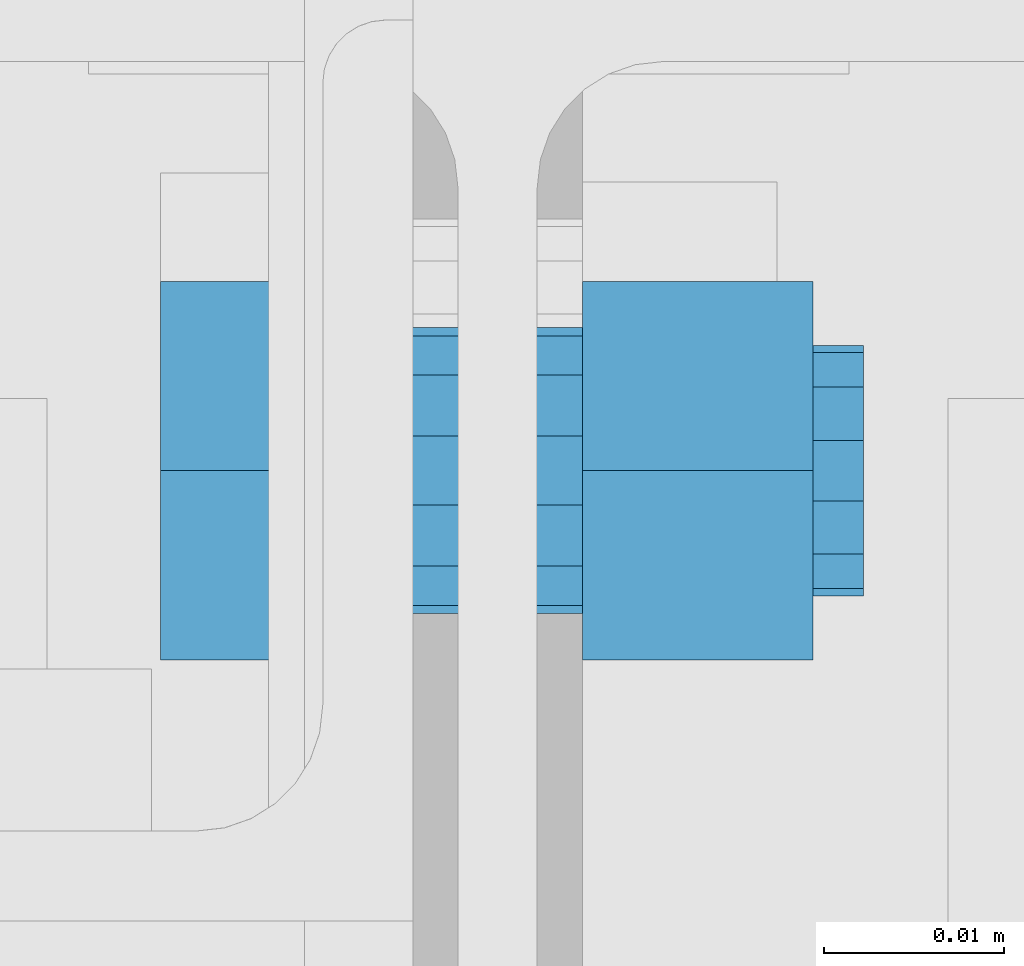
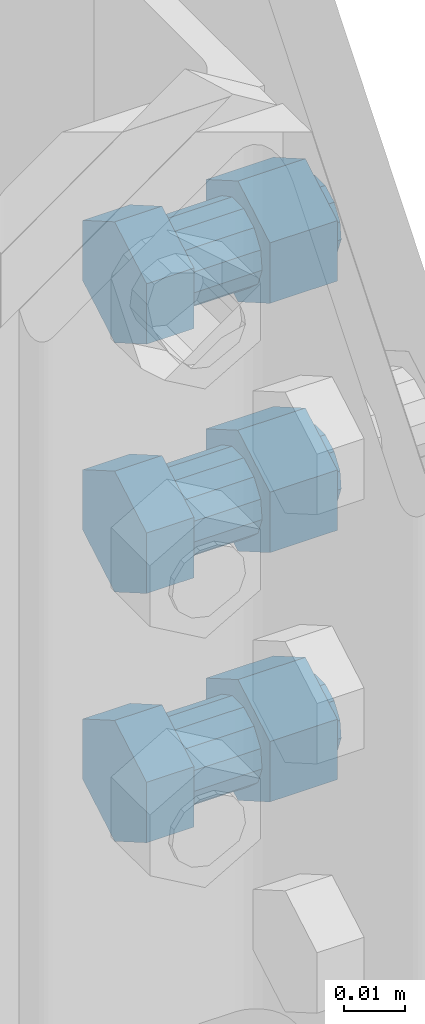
# One storey, part 13 of 18: 1 mechanical fastener.
"""IFC2X3 building model written with IfcOpenShell, lengths in millimetres."""

import ifcopenshell
import ifcopenshell.guid

model = None  # the IFC model being written
_history = None  # IfcOwnerHistory: only IFC2X3 demands one
_inside = {}  # id of a spatial element -> (the spatial element, [elements in it])
_under = {}  # id of a project, library or spatial element -> (it, [spatial elements below it])
_declared = {}  # id of a project -> (the project, [libraries it declares])
_typed = {}  # id of a type object -> (the type object, [elements of that type])
_made_of = {}  # id of a material, layer set ... -> (it, [elements and type objects made of it])


def new_model(schema):
    """Start an empty IFC model of exactly this schema.

    Asked for "IFC4X3", IfcOpenShell would pick the latest addendum, in which some entities
    have other attributes; the version numbers below select the first issue.
    IFC2X3 requires an IfcOwnerHistory on every rooted entity: one is made here for all.
    """
    global model, _history
    if schema == "IFC4X3":
        model = ifcopenshell.file(schema_version=(4, 3, 0, 0))
    else:
        model = ifcopenshell.file(schema=schema)
    _inside.clear()
    _under.clear()
    _declared.clear()
    _typed.clear()
    _made_of.clear()
    _history = None
    if model.schema == "IFC2X3":
        org = make("IfcOrganization", Name="unknown")
        user = make(
            "IfcPersonAndOrganization",
            ThePerson=make("IfcPerson", FamilyName="unknown"),
            TheOrganization=org,
        )
        app = make(
            "IfcApplication",
            ApplicationDeveloper=org,
            Version="unknown",
            ApplicationFullName="unknown",
            ApplicationIdentifier="unknown",
        )
        _history = make(
            "IfcOwnerHistory",
            OwningUser=user,
            OwningApplication=app,
            ChangeAction="ADDED",
            CreationDate=0,
        )
    return model


def make(cls, **values):
    """One entity of the class cls with the attributes given. An attribute that is None is left unset."""
    return model.create_entity(
        cls, **{name: value for name, value in values.items() if value is not None}
    )


def rooted(cls, **values):
    """An entity with a GlobalId (a new one), such as an element, a storey or a relation."""
    return make(cls, GlobalId=ifcopenshell.guid.new(), OwnerHistory=_history, **values)


def si_unit(unit_type, name, prefix=None):
    """IfcSIUnit, for example si_unit("LENGTHUNIT", "METRE", prefix="MILLI")."""
    return make("IfcSIUnit", UnitType=unit_type, Prefix=prefix, Name=name)


def assignment(units):
    """IfcUnitAssignment: the units of a project."""
    return None if units is None else make("IfcUnitAssignment", Units=units)


def point(xyz):
    """IfcCartesianPoint."""
    return None if xyz is None else make("IfcCartesianPoint", Coordinates=xyz)


def direction(xyz):
    """IfcDirection."""
    return None if xyz is None else make("IfcDirection", DirectionRatios=xyz)


def frame(location, z_axis=None, x_axis=None):
    """IfcAxis2Placement3D, a coordinate frame: its origin and axes. An axis left out is left unset."""
    return make(
        "IfcAxis2Placement3D",
        Location=point(location),
        Axis=direction(z_axis),
        RefDirection=direction(x_axis),
    )


def origin_with_axes():
    """The frame at (0, 0, 0) with the z axis (0, 0, 1) and the x axis (1, 0, 0) written out."""
    return frame((0.0, 0.0, 0.0), z_axis=(0.0, 0.0, 1.0), x_axis=(1.0, 0.0, 0.0))


def place(relative_to, where):
    """IfcLocalPlacement: puts the frame where relative to a parent placement (None: the world)."""
    return make(
        "IfcLocalPlacement", PlacementRelTo=relative_to, RelativePlacement=where
    )


def context(
    kind, dimensions, precision=None, world=None, true_north=None, identifier=None
):
    """IfcGeometricRepresentationContext, for example the 3D "Model" context."""
    return make(
        "IfcGeometricRepresentationContext",
        ContextIdentifier=identifier,
        ContextType=kind,
        CoordinateSpaceDimension=dimensions,
        Precision=precision,
        WorldCoordinateSystem=world,
        TrueNorth=true_north,
    )


def subcontext(parent, identifier, kind, view, scale=None):
    """IfcGeometricRepresentationSubContext, for example "Body" below "Model"."""
    return make(
        "IfcGeometricRepresentationSubContext",
        ContextIdentifier=identifier,
        ContextType=kind,
        ParentContext=parent,
        TargetScale=scale,
        TargetView=view,
    )


def project(units=None, contexts=None):
    """IfcProject with its units and contexts."""
    return rooted(
        "IfcProject",
        Name="project",
        RepresentationContexts=contexts,
        UnitsInContext=assignment(units),
    )


def spatial(cls, under=None, at=None, **own):
    """A site, building, storey or space (cls), placed at a placement, below another one or the project."""
    s = rooted(cls, ObjectPlacement=at, **own)
    if under is not None:
        _under.setdefault(under.id(), (under, []))[1].append(s)
    return s


def faces_of(points, faces, orient=None, outer=None):
    """IfcFace entities. A face is a list of loops; a loop is a list of indices into points, from 0.

    orient and outer hold one flag for each loop. By default every Orientation is true, the
    first loop of a face is its IfcFaceOuterBound and the others are IfcFaceBound.
    """
    made = []
    for i, loops in enumerate(faces):
        bounds = []
        for j, loop in enumerate(loops):
            is_outer = j == 0 if outer is None else outer[i][j]
            bounds.append(
                make(
                    "IfcFaceOuterBound" if is_outer else "IfcFaceBound",
                    Bound=make("IfcPolyLoop", Polygon=[points[k] for k in loop]),
                    Orientation=True if orient is None else orient[i][j],
                )
            )
        made.append(make("IfcFace", Bounds=bounds))
    return made


def faceted_brep(points, faces, orient=None, outer=None, voids=None):
    """IfcFacetedBrep: a solid bounded by flat faces; with voids (closed shells), ...WithVoids."""
    shared = [point(p) for p in points]
    hull = make("IfcClosedShell", CfsFaces=faces_of(shared, faces, orient, outer))
    if voids is None:
        return make("IfcFacetedBrep", Outer=hull)
    return make(
        "IfcFacetedBrepWithVoids",
        Outer=hull,
        Voids=[
            make(cls, CfsFaces=faces_of(shared, fs, o, b)) for cls, fs, o, b in voids
        ],
    )


def shape(context_of_items, identifier, shape_type, items):
    """IfcShapeRepresentation: the items that make up one representation, for example the "Body"."""
    return make(
        "IfcShapeRepresentation",
        ContextOfItems=context_of_items,
        RepresentationIdentifier=identifier,
        RepresentationType=shape_type,
        Items=items,
    )


def source(mapping_origin, context_of_items, identifier, shape_type, items):
    """IfcRepresentationMap: a shape defined once, which mapped items show again and again."""
    return make(
        "IfcRepresentationMap",
        MappingOrigin=mapping_origin,
        MappedRepresentation=shape(context_of_items, identifier, shape_type, items),
    )


def transform(
    local_origin,
    x_axis=None,
    y_axis=None,
    z_axis=None,
    scale=None,
    scale2=None,
    scale3=None,
    uniform=True,
):
    """IfcCartesianTransformationOperator3D, or its non-uniform kind. x_axis, y_axis, z_axis: its Axis1, 2, 3."""
    if uniform:
        return make(
            "IfcCartesianTransformationOperator3D",
            Axis1=direction(x_axis),
            Axis2=direction(y_axis),
            LocalOrigin=point(local_origin),
            Scale=scale,
            Axis3=direction(z_axis),
        )
    return make(
        "IfcCartesianTransformationOperator3DnonUniform",
        Axis1=direction(x_axis),
        Axis2=direction(y_axis),
        LocalOrigin=point(local_origin),
        Scale=scale,
        Axis3=direction(z_axis),
        Scale2=scale2,
        Scale3=scale3,
    )


def mapped(mapping_source, mapping_target):
    """IfcMappedItem: shows the shape of a source again, moved by a transform."""
    return make(
        "IfcMappedItem", MappingSource=mapping_source, MappingTarget=mapping_target
    )


def made_of(thing, what):
    """Note that an element or type object is made of a material, layer set ...; save() writes the relation."""
    if what is not None:
        _made_of.setdefault(what.id(), (what, []))[1].append(thing)
    return thing


def type_object(cls, material=None, **own):
    """A type object (cls), such as IfcWallType, which elements share."""
    return made_of(rooted(cls, **own), material)


def element(
    cls,
    number,
    at=None,
    inside=None,
    cuts=None,
    type_object=None,
    material=None,
    context=None,
    identifier="Body",
    shape_type=None,
    held_by="IfcProductDefinitionShape",
    body=None,
    shapes=None,
    **own,
):
    """One element of the class cls, such as IfcWall. Its Tag is "e" and its number.

    at: its placement. inside: the storey or other place that contains it. cuts: it is an
    opening in that element (IfcRelVoidsElement). A single representation is given by context,
    identifier, shape_type and body (its items); several are given by shapes. held_by: the class
    of the entity that holds the representations. save() writes the other relations.
    """
    e = rooted(cls, Tag="e%d" % number, ObjectPlacement=at, **own)
    if body is not None:
        shapes = [shape(context, identifier, shape_type, body)]
    if shapes is not None:
        e.Representation = make(held_by, Representations=shapes)
    if inside is not None:
        _inside.setdefault(inside.id(), (inside, []))[1].append(e)
    if cuts is not None:
        rooted(
            "IfcRelVoidsElement", RelatingBuildingElement=cuts, RelatedOpeningElement=e
        )
    if type_object is not None:
        _typed.setdefault(type_object.id(), (type_object, []))[1].append(e)
    return made_of(e, material)


def aggregate(whole, parts):
    """IfcRelAggregates: a whole, such as a stair, and the parts it consists of."""
    return rooted("IfcRelAggregates", RelatingObject=whole, RelatedObjects=parts)


def save(model, path):
    """Write the relations noted so far, then the file.

    IfcRelAggregates (storeys below a building ...), IfcRelContainedInSpatialStructure (elements
    in a storey), IfcRelDefinesByType, IfcRelAssociatesMaterial and IfcRelDeclares: one each for
    every whole, place, type object, material and project.
    """
    for whole, parts in _under.values():
        aggregate(whole, parts)
    for where, things in _inside.values():
        rooted(
            "IfcRelContainedInSpatialStructure",
            RelatedElements=things,
            RelatingStructure=where,
        )
    for kind, things in _typed.values():
        rooted("IfcRelDefinesByType", RelatedObjects=things, RelatingType=kind)
    for what, things in _made_of.values():
        rooted("IfcRelAssociatesMaterial", RelatedObjects=things, RelatingMaterial=what)
    for by, libraries in _declared.values():
        rooted("IfcRelDeclares", RelatingContext=by, RelatedDefinitions=libraries)
    model.write(path)


model = new_model("IFC2X3")

# Units and contexts
model_context = context("Model", 3, precision=1e-05, world=origin_with_axes())
body_context = subcontext(model_context, "Body", "Model", "MODEL_VIEW")
ifc_project = project(units=[si_unit("LENGTHUNIT", "METRE", prefix="MILLI"), si_unit("AREAUNIT", "SQUARE_METRE"), si_unit("VOLUMEUNIT", "CUBIC_METRE"), si_unit("MASSUNIT", "GRAM", prefix="KILO"), si_unit("TIMEUNIT", "SECOND"), si_unit("PLANEANGLEUNIT", "RADIAN"), si_unit("SOLIDANGLEUNIT", "STERADIAN"), si_unit("THERMODYNAMICTEMPERATUREUNIT", "DEGREE_CELSIUS"), si_unit("LUMINOUSINTENSITYUNIT", "LUMEN")], contexts=[model_context])

# Site, building, storey
site_placement = place(None, origin_with_axes())
site = spatial("IfcSite", under=ifc_project, at=site_placement, Name="Undefined", CompositionType="ELEMENT")
building_placement = place(site_placement, origin_with_axes())
building = spatial("IfcBuilding", under=site, at=building_placement, Name="Undefined", CompositionType="ELEMENT")
storey_placement = place(building_placement, origin_with_axes())
storey = spatial("IfcBuildingStorey", under=building, at=storey_placement, Name="Undefined", CompositionType="ELEMENT", Elevation=0.0)

# Mechanical fastener
mechanical_fastener_type = type_object("IfcMechanicalFastenerType", Name="Bolt assembly")
shared_shape_1 = source(origin_with_axes(), body_context, "Body", "Brep", [
    faceted_brep([(12.12435565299, -18.700009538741, 0.0), (6.062177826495, -18.700009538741, 10.5000000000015), (-6.062177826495, -18.700009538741, 10.5000000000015), (-12.12435565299, -18.700009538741, 0.0), (-6.062177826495, -18.700009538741, -10.5000000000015), (6.062177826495, -18.700009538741, -10.5000000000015), (6.062177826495, -9.700009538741, -10.5000000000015), (-6.062177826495, -9.700009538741, -10.5000000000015), (-12.12435565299, -9.700009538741, 0.0), (-6.062177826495, -9.700009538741, 10.5000000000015), (6.062177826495, -9.700009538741, 10.5000000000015), (12.12435565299, -9.700009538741, 0.0), (7.0, -9.700009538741, 0.0), (6.19819217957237, -9.700009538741, 3.25306220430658), (3.97645322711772, -9.700009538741, 5.76088706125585), (0.843756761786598, -9.700009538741, 6.94896211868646), (-2.48223420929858, -9.700009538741, 6.54511369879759), (-5.23957523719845, -9.700009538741, 4.64185860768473), (-6.79659272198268, -9.700009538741, 1.67520965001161), (-6.79659272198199, -9.700009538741, -1.67520965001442), (-5.23957523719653, -9.700009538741, -4.6418586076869), (-2.48223420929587, -9.700009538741, -6.54511369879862), (0.843756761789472, -9.700009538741, -6.94896211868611), (3.97645322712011, -9.700009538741, -5.7608870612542), (3.97645322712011, 20.299990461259, -5.7608870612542), (0.843756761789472, 20.299990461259, -6.94896211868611), (-2.48223420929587, 20.299990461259, -6.54511369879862), (-5.23957523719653, 20.299990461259, -4.6418586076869), (-6.79659272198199, 20.299990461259, -1.67520965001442), (-6.79659272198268, 20.299990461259, 1.67520965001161), (-5.23957523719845, 20.299990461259, 4.64185860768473), (-2.48223420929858, 20.299990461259, 6.54511369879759), (0.843756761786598, 20.299990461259, 6.94896211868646), (3.97645322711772, 20.299990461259, 5.76088706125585), (6.19819217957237, 20.299990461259, 3.25306220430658), (7.0, 20.299990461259, 0.0), (12.12435565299, 4.69999008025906, 0.0), (6.062177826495, 4.69999008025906, 10.5000000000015), (-6.062177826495, 4.69999008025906, 10.5000000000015), (-12.12435565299, 4.69999008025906, 0.0), (-6.062177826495, 4.69999008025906, -10.5000000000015), (6.062177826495, 4.69999008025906, -10.5000000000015), (6.062177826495, 17.4999902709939, -10.5000000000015), (-6.062177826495, 17.4999902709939, -10.5000000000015), (-12.12435565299, 17.4999902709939, 0.0), (-6.062177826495, 17.4999902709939, 10.5000000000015), (6.062177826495, 17.4999902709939, 10.5000000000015), (12.12435565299, 17.4999902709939, 0.0)], [[[0, 1, 2, 3, 4, 5]], [[6, 7, 8, 9, 10, 11]], [[0, 11, 10, 1]], [[1, 10, 9, 2]], [[2, 9, 8, 3]], [[3, 8, 7, 4]], [[4, 7, 6, 5]], [[5, 6, 11, 0]], [[12, 13, 14, 15, 16, 17, 18, 19, 20, 21, 22, 23]], [[24, 25, 26, 27, 28, 29, 30, 31, 32, 33, 34, 35]], [[12, 35, 34, 13]], [[13, 34, 33, 14]], [[14, 33, 32, 15]], [[15, 32, 31, 16]], [[16, 31, 30, 17]], [[17, 30, 29, 18]], [[18, 29, 28, 19]], [[19, 28, 27, 20]], [[20, 27, 26, 21]], [[21, 26, 25, 22]], [[22, 25, 24, 23]], [[23, 24, 35, 12]], [[36, 37, 38, 39, 40, 41]], [[42, 43, 44, 45, 46, 47]], [[36, 47, 46, 37]], [[37, 46, 45, 38]], [[38, 45, 44, 39]], [[39, 44, 43, 40]], [[40, 43, 42, 41]], [[41, 42, 47, 36]]]),
    faceted_brep([(8.0, -4.80000953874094, 0.0), (7.08364820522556, -4.80000953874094, 3.71778537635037), (4.54451797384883, -4.80000953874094, 6.58387092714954), (0.964293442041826, -4.80000953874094, 7.94167099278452), (-2.83683909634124, -4.80000953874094, 7.48012994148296), (-5.98808598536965, -4.80000953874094, 5.30498126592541), (-7.76753453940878, -4.80000953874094, 1.91452531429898), (-7.76753453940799, -4.80000953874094, -1.91452531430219), (-5.98808598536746, -4.80000953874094, -5.30498126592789), (-2.83683909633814, -4.80000953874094, -7.48012994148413), (0.964293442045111, -4.80000953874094, -7.94167099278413), (4.54451797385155, -4.80000953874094, -6.58387092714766), (4.54451797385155, 4.69999008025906, -6.58387092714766), (0.964293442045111, 4.69999008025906, -7.94167099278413), (-2.83683909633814, 4.69999008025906, -7.48012994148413), (-5.98808598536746, 4.69999008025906, -5.30498126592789), (-7.76753453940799, 4.69999008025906, -1.91452531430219), (-7.76753453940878, 4.69999008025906, 1.91452531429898), (-5.98808598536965, 4.69999008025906, 5.30498126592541), (-2.83683909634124, 4.69999008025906, 7.48012994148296), (0.964293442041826, 4.69999008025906, 7.94167099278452), (4.54451797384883, 4.69999008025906, 6.58387092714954), (7.08364820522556, 4.69999008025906, 3.71778537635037), (8.0, 4.69999008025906, 0.0), (8.0, -9.600009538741, 0.0), (7.08364820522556, -9.600009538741, 3.71778537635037), (4.54451797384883, -9.600009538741, 6.58387092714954), (0.964293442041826, -9.600009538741, 7.94167099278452), (-2.83683909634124, -9.600009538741, 7.48012994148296), (-5.98808598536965, -9.600009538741, 5.30498126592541), (-7.76753453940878, -9.600009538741, 1.91452531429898), (-7.76753453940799, -9.600009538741, -1.91452531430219), (-5.98808598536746, -9.600009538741, -5.30498126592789), (-2.83683909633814, -9.600009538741, -7.48012994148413), (0.964293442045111, -9.600009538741, -7.94167099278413), (4.54451797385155, -9.600009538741, -6.58387092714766), (4.54451797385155, -4.600009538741, -6.58387092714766), (0.964293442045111, -4.600009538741, -7.94167099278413), (-2.83683909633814, -4.600009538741, -7.48012994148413), (-5.98808598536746, -4.600009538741, -5.30498126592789), (-7.76753453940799, -4.600009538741, -1.91452531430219), (-7.76753453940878, -4.600009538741, 1.91452531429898), (-5.98808598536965, -4.600009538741, 5.30498126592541), (-2.83683909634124, -4.600009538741, 7.48012994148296), (0.964293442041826, -4.600009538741, 7.94167099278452), (4.54451797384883, -4.600009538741, 6.58387092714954), (7.08364820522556, -4.600009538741, 3.71778537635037), (8.0, -4.600009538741, 0.0)], [[[0, 1, 2, 3, 4, 5, 6, 7, 8, 9, 10, 11]], [[12, 13, 14, 15, 16, 17, 18, 19, 20, 21, 22, 23]], [[0, 23, 22, 1]], [[1, 22, 21, 2]], [[2, 21, 20, 3]], [[3, 20, 19, 4]], [[4, 19, 18, 5]], [[5, 18, 17, 6]], [[6, 17, 16, 7]], [[7, 16, 15, 8]], [[8, 15, 14, 9]], [[9, 14, 13, 10]], [[10, 13, 12, 11]], [[11, 12, 23, 0]], [[24, 25, 26, 27, 28, 29, 30, 31, 32, 33, 34, 35]], [[36, 37, 38, 39, 40, 41, 42, 43, 44, 45, 46, 47]], [[24, 47, 46, 25]], [[25, 46, 45, 26]], [[26, 45, 44, 27]], [[27, 44, 43, 28]], [[28, 43, 42, 29]], [[29, 42, 41, 30]], [[30, 41, 40, 31]], [[31, 40, 39, 32]], [[32, 39, 38, 33]], [[33, 38, 37, 34]], [[34, 37, 36, 35]], [[35, 36, 47, 24]]]),
])
shared_shape_2 = source(origin_with_axes(), body_context, "Body", "Brep", [
    faceted_brep([(12.12435565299, -18.700009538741, 0.0), (6.062177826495, -18.700009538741, 10.5000000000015), (-6.062177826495, -18.700009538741, 10.5000000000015), (-12.12435565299, -18.700009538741, 0.0), (-6.062177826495, -18.700009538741, -10.5000000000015), (6.062177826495, -18.700009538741, -10.5000000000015), (6.062177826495, -9.700009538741, -10.5000000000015), (-6.062177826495, -9.700009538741, -10.5000000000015), (-12.12435565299, -9.700009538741, 0.0), (-6.062177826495, -9.700009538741, 10.5000000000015), (6.062177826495, -9.700009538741, 10.5000000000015), (12.12435565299, -9.700009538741, 0.0), (7.0, -9.700009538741, 0.0), (6.19819217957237, -9.700009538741, 3.25306220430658), (3.97645322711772, -9.700009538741, 5.76088706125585), (0.843756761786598, -9.700009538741, 6.94896211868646), (-2.48223420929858, -9.700009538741, 6.54511369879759), (-5.23957523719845, -9.700009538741, 4.64185860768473), (-6.79659272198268, -9.700009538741, 1.67520965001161), (-6.79659272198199, -9.700009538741, -1.67520965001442), (-5.23957523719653, -9.700009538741, -4.6418586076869), (-2.48223420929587, -9.700009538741, -6.54511369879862), (0.843756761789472, -9.700009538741, -6.94896211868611), (3.97645322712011, -9.700009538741, -5.7608870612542), (3.97645322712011, 20.299990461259, -5.7608870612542), (0.843756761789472, 20.299990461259, -6.94896211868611), (-2.48223420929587, 20.299990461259, -6.54511369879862), (-5.23957523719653, 20.299990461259, -4.6418586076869), (-6.79659272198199, 20.299990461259, -1.67520965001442), (-6.79659272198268, 20.299990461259, 1.67520965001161), (-5.23957523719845, 20.299990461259, 4.64185860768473), (-2.48223420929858, 20.299990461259, 6.54511369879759), (0.843756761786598, 20.299990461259, 6.94896211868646), (3.97645322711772, 20.299990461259, 5.76088706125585), (6.19819217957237, 20.299990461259, 3.25306220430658), (7.0, 20.299990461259, 0.0), (12.12435565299, 4.69999008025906, 0.0), (6.062177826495, 4.69999008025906, 10.5000000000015), (-6.062177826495, 4.69999008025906, 10.5000000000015), (-12.12435565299, 4.69999008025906, 0.0), (-6.062177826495, 4.69999008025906, -10.5000000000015), (6.062177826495, 4.69999008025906, -10.5000000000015), (6.062177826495, 17.4999902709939, -10.5000000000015), (-6.062177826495, 17.4999902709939, -10.5000000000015), (-12.12435565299, 17.4999902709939, 0.0), (-6.062177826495, 17.4999902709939, 10.5000000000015), (6.062177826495, 17.4999902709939, 10.5000000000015), (12.12435565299, 17.4999902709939, 0.0)], [[[0, 1, 2, 3, 4, 5]], [[6, 7, 8, 9, 10, 11]], [[0, 11, 10, 1]], [[1, 10, 9, 2]], [[2, 9, 8, 3]], [[3, 8, 7, 4]], [[4, 7, 6, 5]], [[5, 6, 11, 0]], [[12, 13, 14, 15, 16, 17, 18, 19, 20, 21, 22, 23]], [[24, 25, 26, 27, 28, 29, 30, 31, 32, 33, 34, 35]], [[12, 35, 34, 13]], [[13, 34, 33, 14]], [[14, 33, 32, 15]], [[15, 32, 31, 16]], [[16, 31, 30, 17]], [[17, 30, 29, 18]], [[18, 29, 28, 19]], [[19, 28, 27, 20]], [[20, 27, 26, 21]], [[21, 26, 25, 22]], [[22, 25, 24, 23]], [[23, 24, 35, 12]], [[36, 37, 38, 39, 40, 41]], [[42, 43, 44, 45, 46, 47]], [[36, 47, 46, 37]], [[37, 46, 45, 38]], [[38, 45, 44, 39]], [[39, 44, 43, 40]], [[40, 43, 42, 41]], [[41, 42, 47, 36]]]),
    faceted_brep([(8.0, -4.80000953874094, 0.0), (7.08364820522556, -4.80000953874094, 3.71778537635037), (4.54451797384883, -4.80000953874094, 6.58387092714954), (0.964293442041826, -4.80000953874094, 7.94167099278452), (-2.83683909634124, -4.80000953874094, 7.48012994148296), (-5.98808598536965, -4.80000953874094, 5.30498126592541), (-7.76753453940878, -4.80000953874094, 1.91452531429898), (-7.76753453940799, -4.80000953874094, -1.91452531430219), (-5.98808598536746, -4.80000953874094, -5.30498126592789), (-2.83683909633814, -4.80000953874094, -7.48012994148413), (0.964293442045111, -4.80000953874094, -7.94167099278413), (4.54451797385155, -4.80000953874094, -6.58387092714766), (4.54451797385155, 4.69999008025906, -6.58387092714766), (0.964293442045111, 4.69999008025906, -7.94167099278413), (-2.83683909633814, 4.69999008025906, -7.48012994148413), (-5.98808598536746, 4.69999008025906, -5.30498126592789), (-7.76753453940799, 4.69999008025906, -1.91452531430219), (-7.76753453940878, 4.69999008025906, 1.91452531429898), (-5.98808598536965, 4.69999008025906, 5.30498126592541), (-2.83683909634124, 4.69999008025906, 7.48012994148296), (0.964293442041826, 4.69999008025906, 7.94167099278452), (4.54451797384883, 4.69999008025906, 6.58387092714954), (7.08364820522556, 4.69999008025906, 3.71778537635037), (8.0, 4.69999008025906, 0.0), (8.0, -9.600009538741, 0.0), (7.08364820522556, -9.600009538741, 3.71778537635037), (4.54451797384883, -9.600009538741, 6.58387092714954), (0.964293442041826, -9.600009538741, 7.94167099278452), (-2.83683909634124, -9.600009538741, 7.48012994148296), (-5.98808598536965, -9.600009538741, 5.30498126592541), (-7.76753453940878, -9.600009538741, 1.91452531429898), (-7.76753453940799, -9.600009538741, -1.91452531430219), (-5.98808598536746, -9.600009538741, -5.30498126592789), (-2.83683909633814, -9.600009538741, -7.48012994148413), (0.964293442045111, -9.600009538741, -7.94167099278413), (4.54451797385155, -9.600009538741, -6.58387092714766), (4.54451797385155, -4.600009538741, -6.58387092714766), (0.964293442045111, -4.600009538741, -7.94167099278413), (-2.83683909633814, -4.600009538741, -7.48012994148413), (-5.98808598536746, -4.600009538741, -5.30498126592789), (-7.76753453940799, -4.600009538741, -1.91452531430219), (-7.76753453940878, -4.600009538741, 1.91452531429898), (-5.98808598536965, -4.600009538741, 5.30498126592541), (-2.83683909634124, -4.600009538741, 7.48012994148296), (0.964293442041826, -4.600009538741, 7.94167099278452), (4.54451797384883, -4.600009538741, 6.58387092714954), (7.08364820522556, -4.600009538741, 3.71778537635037), (8.0, -4.600009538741, 0.0)], [[[0, 1, 2, 3, 4, 5, 6, 7, 8, 9, 10, 11]], [[12, 13, 14, 15, 16, 17, 18, 19, 20, 21, 22, 23]], [[0, 23, 22, 1]], [[1, 22, 21, 2]], [[2, 21, 20, 3]], [[3, 20, 19, 4]], [[4, 19, 18, 5]], [[5, 18, 17, 6]], [[6, 17, 16, 7]], [[7, 16, 15, 8]], [[8, 15, 14, 9]], [[9, 14, 13, 10]], [[10, 13, 12, 11]], [[11, 12, 23, 0]], [[24, 25, 26, 27, 28, 29, 30, 31, 32, 33, 34, 35]], [[36, 37, 38, 39, 40, 41, 42, 43, 44, 45, 46, 47]], [[24, 47, 46, 25]], [[25, 46, 45, 26]], [[26, 45, 44, 27]], [[27, 44, 43, 28]], [[28, 43, 42, 29]], [[29, 42, 41, 30]], [[30, 41, 40, 31]], [[31, 40, 39, 32]], [[32, 39, 38, 33]], [[33, 38, 37, 34]], [[34, 37, 36, 35]], [[35, 36, 47, 24]]]),
])
shared_shape_3 = source(origin_with_axes(), body_context, "Body", "Brep", [
    faceted_brep([(12.12435565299, -18.700009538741, 0.0), (6.062177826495, -18.700009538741, 10.5000000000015), (-6.062177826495, -18.700009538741, 10.5000000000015), (-12.12435565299, -18.700009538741, 0.0), (-6.062177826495, -18.700009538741, -10.5000000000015), (6.062177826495, -18.700009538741, -10.5000000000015), (6.062177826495, -9.700009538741, -10.5000000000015), (-6.062177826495, -9.700009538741, -10.5000000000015), (-12.12435565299, -9.700009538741, 0.0), (-6.062177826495, -9.700009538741, 10.5000000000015), (6.062177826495, -9.700009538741, 10.5000000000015), (12.12435565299, -9.700009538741, 0.0), (7.0, -9.700009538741, 0.0), (6.19819217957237, -9.700009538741, 3.25306220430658), (3.97645322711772, -9.700009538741, 5.76088706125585), (0.843756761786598, -9.700009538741, 6.94896211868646), (-2.48223420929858, -9.700009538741, 6.54511369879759), (-5.23957523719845, -9.700009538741, 4.64185860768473), (-6.79659272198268, -9.700009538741, 1.67520965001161), (-6.79659272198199, -9.700009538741, -1.67520965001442), (-5.23957523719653, -9.700009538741, -4.6418586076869), (-2.48223420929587, -9.700009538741, -6.54511369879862), (0.843756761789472, -9.700009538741, -6.94896211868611), (3.97645322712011, -9.700009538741, -5.7608870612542), (3.97645322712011, 20.299990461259, -5.7608870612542), (0.843756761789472, 20.299990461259, -6.94896211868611), (-2.48223420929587, 20.299990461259, -6.54511369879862), (-5.23957523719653, 20.299990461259, -4.6418586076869), (-6.79659272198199, 20.299990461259, -1.67520965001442), (-6.79659272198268, 20.299990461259, 1.67520965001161), (-5.23957523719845, 20.299990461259, 4.64185860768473), (-2.48223420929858, 20.299990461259, 6.54511369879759), (0.843756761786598, 20.299990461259, 6.94896211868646), (3.97645322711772, 20.299990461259, 5.76088706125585), (6.19819217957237, 20.299990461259, 3.25306220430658), (7.0, 20.299990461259, 0.0), (12.12435565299, 4.69999008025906, 0.0), (6.062177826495, 4.69999008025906, 10.5000000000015), (-6.062177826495, 4.69999008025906, 10.5000000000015), (-12.12435565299, 4.69999008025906, 0.0), (-6.062177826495, 4.69999008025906, -10.5000000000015), (6.062177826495, 4.69999008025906, -10.5000000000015), (6.062177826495, 17.4999902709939, -10.5000000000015), (-6.062177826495, 17.4999902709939, -10.5000000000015), (-12.12435565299, 17.4999902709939, 0.0), (-6.062177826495, 17.4999902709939, 10.5000000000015), (6.062177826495, 17.4999902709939, 10.5000000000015), (12.12435565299, 17.4999902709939, 0.0)], [[[0, 1, 2, 3, 4, 5]], [[6, 7, 8, 9, 10, 11]], [[0, 11, 10, 1]], [[1, 10, 9, 2]], [[2, 9, 8, 3]], [[3, 8, 7, 4]], [[4, 7, 6, 5]], [[5, 6, 11, 0]], [[12, 13, 14, 15, 16, 17, 18, 19, 20, 21, 22, 23]], [[24, 25, 26, 27, 28, 29, 30, 31, 32, 33, 34, 35]], [[12, 35, 34, 13]], [[13, 34, 33, 14]], [[14, 33, 32, 15]], [[15, 32, 31, 16]], [[16, 31, 30, 17]], [[17, 30, 29, 18]], [[18, 29, 28, 19]], [[19, 28, 27, 20]], [[20, 27, 26, 21]], [[21, 26, 25, 22]], [[22, 25, 24, 23]], [[23, 24, 35, 12]], [[36, 37, 38, 39, 40, 41]], [[42, 43, 44, 45, 46, 47]], [[36, 47, 46, 37]], [[37, 46, 45, 38]], [[38, 45, 44, 39]], [[39, 44, 43, 40]], [[40, 43, 42, 41]], [[41, 42, 47, 36]]]),
    faceted_brep([(8.0, -4.80000953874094, 0.0), (7.08364820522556, -4.80000953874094, 3.71778537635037), (4.54451797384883, -4.80000953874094, 6.58387092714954), (0.964293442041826, -4.80000953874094, 7.94167099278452), (-2.83683909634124, -4.80000953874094, 7.48012994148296), (-5.98808598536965, -4.80000953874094, 5.30498126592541), (-7.76753453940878, -4.80000953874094, 1.91452531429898), (-7.76753453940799, -4.80000953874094, -1.91452531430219), (-5.98808598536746, -4.80000953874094, -5.30498126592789), (-2.83683909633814, -4.80000953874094, -7.48012994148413), (0.964293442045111, -4.80000953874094, -7.94167099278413), (4.54451797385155, -4.80000953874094, -6.58387092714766), (4.54451797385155, 4.69999008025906, -6.58387092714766), (0.964293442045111, 4.69999008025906, -7.94167099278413), (-2.83683909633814, 4.69999008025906, -7.48012994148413), (-5.98808598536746, 4.69999008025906, -5.30498126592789), (-7.76753453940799, 4.69999008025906, -1.91452531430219), (-7.76753453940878, 4.69999008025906, 1.91452531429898), (-5.98808598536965, 4.69999008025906, 5.30498126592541), (-2.83683909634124, 4.69999008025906, 7.48012994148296), (0.964293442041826, 4.69999008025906, 7.94167099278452), (4.54451797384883, 4.69999008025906, 6.58387092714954), (7.08364820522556, 4.69999008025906, 3.71778537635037), (8.0, 4.69999008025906, 0.0), (8.0, -9.600009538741, 0.0), (7.08364820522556, -9.600009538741, 3.71778537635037), (4.54451797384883, -9.600009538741, 6.58387092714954), (0.964293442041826, -9.600009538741, 7.94167099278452), (-2.83683909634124, -9.600009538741, 7.48012994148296), (-5.98808598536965, -9.600009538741, 5.30498126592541), (-7.76753453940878, -9.600009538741, 1.91452531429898), (-7.76753453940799, -9.600009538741, -1.91452531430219), (-5.98808598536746, -9.600009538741, -5.30498126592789), (-2.83683909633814, -9.600009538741, -7.48012994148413), (0.964293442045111, -9.600009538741, -7.94167099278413), (4.54451797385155, -9.600009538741, -6.58387092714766), (4.54451797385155, -4.600009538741, -6.58387092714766), (0.964293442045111, -4.600009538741, -7.94167099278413), (-2.83683909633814, -4.600009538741, -7.48012994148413), (-5.98808598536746, -4.600009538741, -5.30498126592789), (-7.76753453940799, -4.600009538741, -1.91452531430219), (-7.76753453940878, -4.600009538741, 1.91452531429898), (-5.98808598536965, -4.600009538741, 5.30498126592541), (-2.83683909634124, -4.600009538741, 7.48012994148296), (0.964293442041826, -4.600009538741, 7.94167099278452), (4.54451797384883, -4.600009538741, 6.58387092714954), (7.08364820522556, -4.600009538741, 3.71778537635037), (8.0, -4.600009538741, 0.0)], [[[0, 1, 2, 3, 4, 5, 6, 7, 8, 9, 10, 11]], [[12, 13, 14, 15, 16, 17, 18, 19, 20, 21, 22, 23]], [[0, 23, 22, 1]], [[1, 22, 21, 2]], [[2, 21, 20, 3]], [[3, 20, 19, 4]], [[4, 19, 18, 5]], [[5, 18, 17, 6]], [[6, 17, 16, 7]], [[7, 16, 15, 8]], [[8, 15, 14, 9]], [[9, 14, 13, 10]], [[10, 13, 12, 11]], [[11, 12, 23, 0]], [[24, 25, 26, 27, 28, 29, 30, 31, 32, 33, 34, 35]], [[36, 37, 38, 39, 40, 41, 42, 43, 44, 45, 46, 47]], [[24, 47, 46, 25]], [[25, 46, 45, 26]], [[26, 45, 44, 27]], [[27, 44, 43, 28]], [[28, 43, 42, 29]], [[29, 42, 41, 30]], [[30, 41, 40, 31]], [[31, 40, 39, 32]], [[32, 39, 38, 33]], [[33, 38, 37, 34]], [[34, 37, 36, 35]], [[35, 36, 47, 24]]]),
])
mechanical_fastener_placement = place(storey_placement, frame((9.729129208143e-06, -43.9992016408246, 70.8023880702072), z_axis=(2.86064505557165e-14, -0.999999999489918, -3.19400002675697e-05), x_axis=(2.35338842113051e-13, 3.18999996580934e-05, -0.999999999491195)))
element("IfcMechanicalFastener", 1, at=mechanical_fastener_placement, inside=storey, type_object=mechanical_fastener_type, Name="Bolt assembly", NominalDiameter=14.0, NominalLength=35.0, context=body_context, shape_type="MappedRepresentation", body=[
    mapped(shared_shape_1, transform((0.0, 0.0, 0.0))),
    mapped(shared_shape_2, transform((50.0, 0.0, 0.0))),
    mapped(shared_shape_3, transform((100.0, 0.0, -5.04870979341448e-27))),
])

save(model, "model.ifc")
